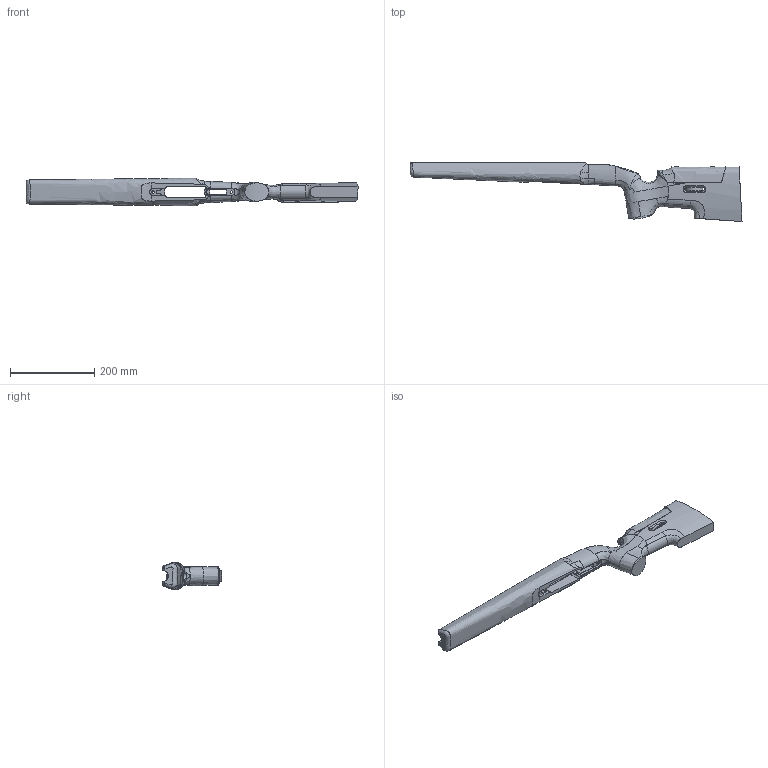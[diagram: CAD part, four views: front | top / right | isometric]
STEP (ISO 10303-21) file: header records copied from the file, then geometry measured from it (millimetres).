
FILE_DESCRIPTION (( 'STEP AP214' ), '1' );
FILE_NAME ('CALCIO Tactical in LEGNO con POGGIAGUANCIA.STEP', '2015-02-02T14:59:19', ( '' ), ( '' ), 'SwSTEP 2.0', 'SolidWorks 2013', '' );
FILE_SCHEMA (( 'AUTOMOTIVE_DESIGN' ));
Length unit declared in the file: millimetre
Products named in the file (16): Impugnat. x calibri_3890A; hex nut high strength_din_M06; Impugnat. x calibri_3890; 3884B Piastrina super. x meccan. regolaz. poggiaguancia; POGGIAGUANCIA LEGNO; Ass. Piastrina infer. x meccan. regolaz. poggiaguancia (3884); sample o-ring_-113 (0.5625 X 0.75); Distanziale_x 3890; slotted cheese head screw_din_5 x 15; 3884A Piastrina infer. x meccan. regolaz. poggiaguancia; Calcio LEGNO; CALCIO Tactical in LEGNO con POGGIAGUANCIA; Ass. POGGIAGUANCIA in LEGNO con  meccan. regolaz.; square nut thin grade b_din_3884; socket head cap screw_din_5 x 27; Ass. Piastrina super. x meccan. regolaz. poggiaguancia (3884)
Assembly tree (21 placements, depth 4):
  CALCIO Tactical in LEGNO con POGGIAGUANCIA
    Calcio LEGNO
    Ass. Piastrina infer. x meccan. regolaz. poggiaguancia (3884)
      3884A Piastrina infer. x meccan. regolaz. poggiaguancia
      slotted cheese head screw_din_5 x 15  x2
      Distanziale_x 3890
      sample o-ring_-113 (0.5625 X 0.75)
    Ass. POGGIAGUANCIA in LEGNO con  meccan. regolaz.
      POGGIAGUANCIA LEGNO
      Ass. Piastrina super. x meccan. regolaz. poggiaguancia (3884)
        3884B Piastrina super. x meccan. regolaz. poggiaguancia
        Impugnat. x calibri_3890  x2
        hex nut high strength_din_M06  x3
        Impugnat. x calibri_3890A
      socket head cap screw_din_5 x 27  x2
      square nut thin grade b_din_3884  x2
Bounding box: 786.81 x 140 x 65.5 mm (x, y, z)
Volume: 1866435.8 mm3; surface area: 256106.2 mm2
Topology: 18 solids, 19 shells, 779 faces, 2115 edges, 1371 vertices
Faces by surface type: plane 332, cylinder 216, cone 123, bspline 80, torus 28
Entity records: 77631 total; most frequent: CARTESIAN_POINT 60814, ORIENTED_EDGE 3588, DIRECTION 2762, EDGE_CURVE 1794, VERTEX_POINT 1197, AXIS2_PLACEMENT_3D 1013, LINE 736, VECTOR 736
